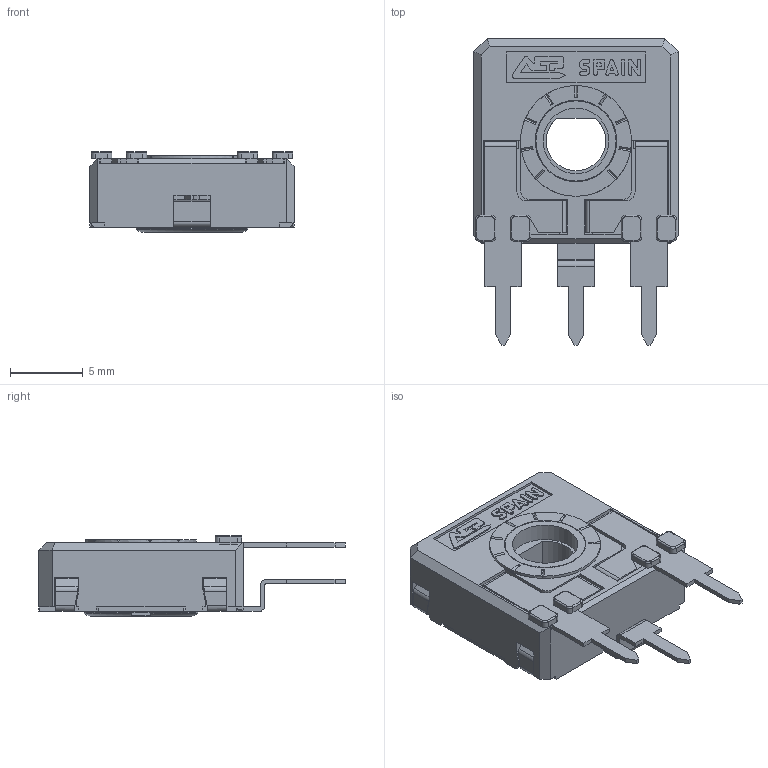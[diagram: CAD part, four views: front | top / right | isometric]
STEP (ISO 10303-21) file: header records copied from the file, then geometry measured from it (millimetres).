
FILE_DESCRIPTION(/* description */ (''),/* implementation_level */ '2;1');
FILE_NAME(/* name */ 'C:\Users\CEM\Desktop\ENVIAR\TRANSICION 3D CATALOGOS\RS14DH2,5.stp',/* time_stamp */ '2025-12-10T10:20:00+01:00',/* author */ ('CEM'),/* organization */ (''),/* preprocessor_version */ 'ST-DEVELOPER v16.13',/* originating_system */ 'Autodesk Inventor 2018',/* authorisation */ '');
FILE_SCHEMA (('AUTOMOTIVE_DESIGN { 1 0 10303 214 3 1 1 }'));
Length unit declared in the file: millimetre
Products named in the file (1): CA14NH2,5
Bounding box: 14 x 21 x 5.55 mm (x, y, z)
Volume: 519.6 mm3; surface area: 1442.5 mm2
Topology: 1 solids, 1 shells, 661 faces, 1857 edges, 1193 vertices
Faces by surface type: plane 490, cylinder 134, torus 23, bspline 8, cone 6
Full cylindrical faces by diameter (mm): 4.5 x1, 5.5 x1, 5.6 x1, 5.752 x1, 6.8 x1, 7.6 x1
Entity records: 21354 total; most frequent: CARTESIAN_POINT 3904, ORIENTED_EDGE 3684, DIRECTION 3474, EDGE_CURVE 1842, LINE 1462, VECTOR 1462, VERTEX_POINT 1188, AXIS2_PLACEMENT_3D 1006
